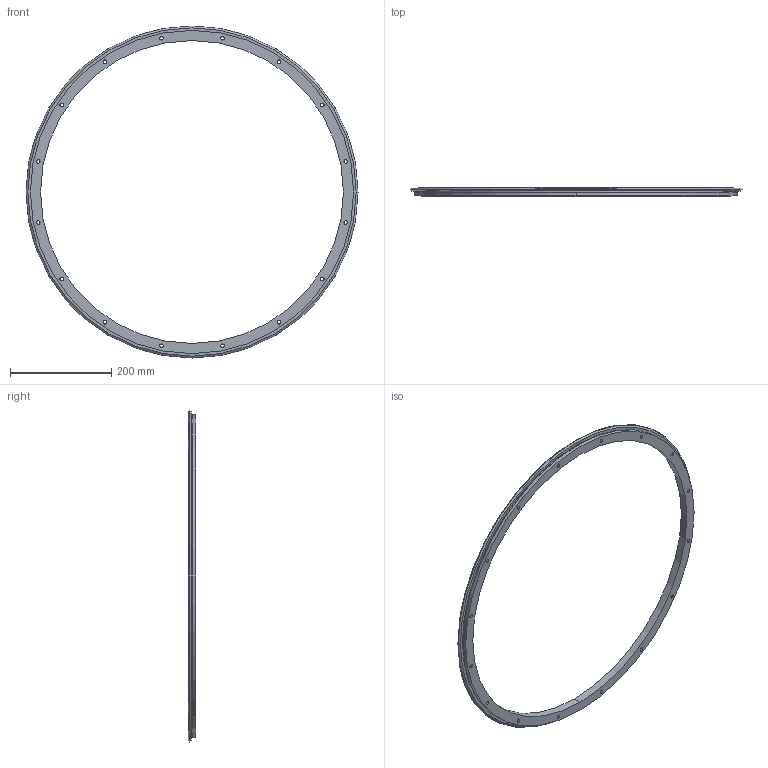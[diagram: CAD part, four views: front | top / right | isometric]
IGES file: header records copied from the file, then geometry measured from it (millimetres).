
Start section: 3D InterOp IGES (v. 2020 1.0.1), Spatial Corp. Copyright (c) 1999-2017.
Global section: file name: rem_655_r360.igs; native system: Spatial Corp.; preprocessor: 3D InterOp ACIS/IGES; author: TraceParts; organization: TraceParts S.A.; date: 20220624.102115; units: millimetre
Bounding box: 655.11 x 15.5 x 655.11 mm (x, y, z)
Surface area: 174045.9 mm2 (no closed solid volume)
Topology: 0 solids, 0 shells, 98 faces, 456 edges, 456 vertices
Faces by surface type: revolution 78, extrusion 20
